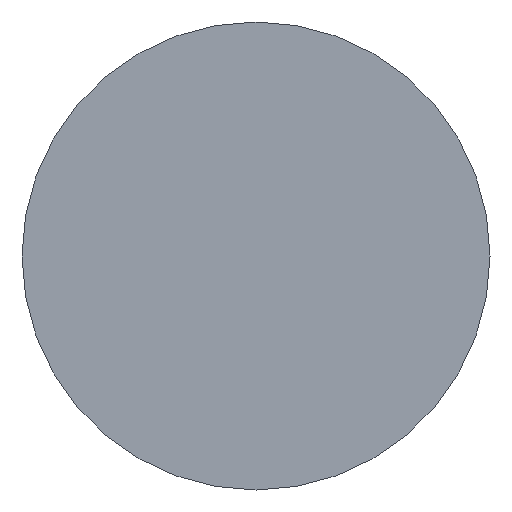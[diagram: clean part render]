
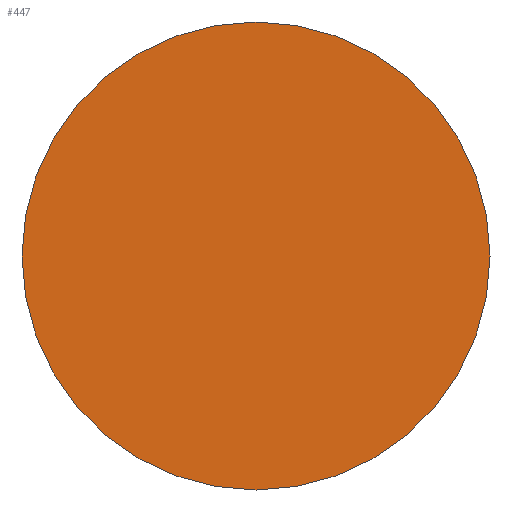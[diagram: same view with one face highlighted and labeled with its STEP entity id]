
A CAD part, front view. The second image highlights one B-rep face of the part: STEP entity #447.
In plain terms, the highlighted planar face has unit normal (0, -1, 0).
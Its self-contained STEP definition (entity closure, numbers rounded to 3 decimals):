
#327=CARTESIAN_POINT('',(0.,0.,0.));
#328=DIRECTION('',(0.,-1.,0.));
#329=DIRECTION('',(0.,0.,1.));
#330=AXIS2_PLACEMENT_3D('',#327,#328,#329);
#336=CARTESIAN_POINT('',(0.,0.,0.));
#337=DIRECTION('',(0.,-1.,0.));
#338=DIRECTION('',(0.,0.,-1.));
#339=AXIS2_PLACEMENT_3D('',#336,#337,#338);
#424=CARTESIAN_POINT('',(0.,0.,3.));
#425=CARTESIAN_POINT('',(0.,0.,-3.));
#426=VERTEX_POINT('',#424);
#427=VERTEX_POINT('',#425);
#436=CARTESIAN_POINT('',(0.,0.,0.));
#437=DIRECTION('',(0.,1.,0.));
#438=DIRECTION('',(0.,0.,-1.));
#439=AXIS2_PLACEMENT_3D('',#436,#437,#438);
#440=PLANE('',#439);
#442=ORIENTED_EDGE('',*,*,#441,.F.);
#444=ORIENTED_EDGE('',*,*,#443,.F.);
#445=EDGE_LOOP('',(#442,#444));
#446=FACE_OUTER_BOUND('',#445,.F.);
#331=CIRCLE('',#330,3.);
#340=CIRCLE('',#339,3.);
#441=EDGE_CURVE('',#426,#427,#331,.T.);
#443=EDGE_CURVE('',#427,#426,#340,.T.);
#447=ADVANCED_FACE('',(#446),#440,.F.);
